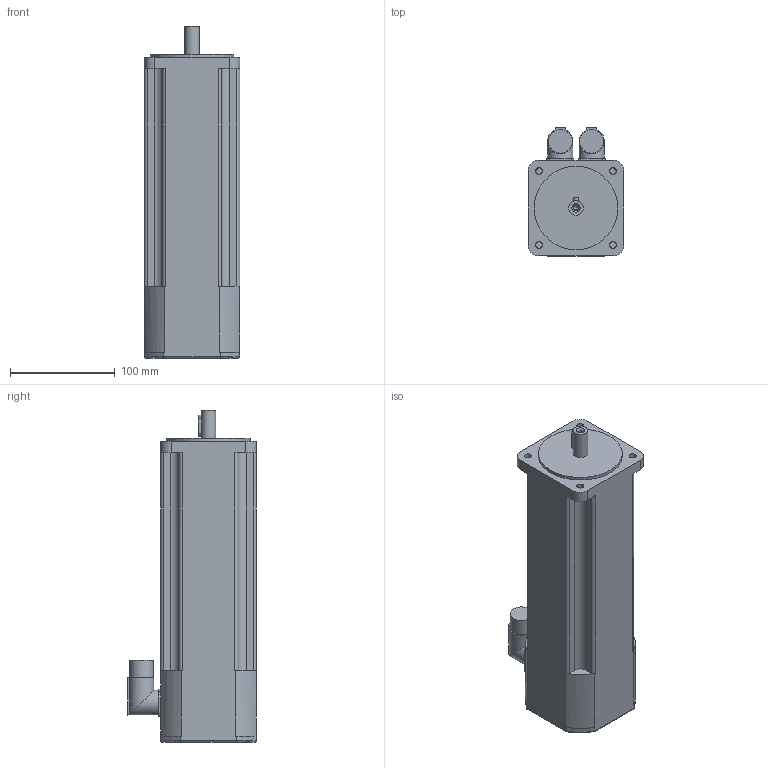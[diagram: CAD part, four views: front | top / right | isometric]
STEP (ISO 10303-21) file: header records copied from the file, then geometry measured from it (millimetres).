
FILE_DESCRIPTION(/* description */ (''),/* implementation_level */ '2;1');
FILE_NAME(/* name */ '\\Lafnas01\disegni\Archivi Lafert\3D\CAD 3D\MODELLI\Assiemi clienti\Serad\Modelli 3D Serad\B56I\Encoder\Enc With Brake\B5603Ixx6BRx2033.ipt.stp',/* time_stamp */ '2015-09-07T10:49:39+02:00',/* author */ ('Pastrello Ylenia'),/* organization */ (''),/* preprocessor_version */ 'ST-DEVELOPER v15.6',/* originating_system */ 'Autodesk Inventor 2015',/* authorisation */ '');
FILE_SCHEMA (('AUTOMOTIVE_DESIGN { 1 0 10303 214 3 1 1 }'));
Length unit declared in the file: millimetre
Products named in the file (1): B5603Ixx6BRx2033
Bounding box: 91.3 x 122.8 x 317.5 mm (x, y, z)
Volume: 2178468.3 mm3; surface area: 126589.7 mm2
Topology: 1 solids, 1 shells, 133 faces, 339 edges, 215 vertices
Faces by surface type: plane 74, cylinder 52, torus 4, cone 3
Full cylindrical faces by diameter (mm): 4.134 x1, 5.3 x1, 6.5 x4, 14 x1, 22.7 x2, 24 x2, 80 x1
Entity records: 4088 total; most frequent: CARTESIAN_POINT 804, DIRECTION 726, ORIENTED_EDGE 640, EDGE_CURVE 320, AXIS2_PLACEMENT_3D 282, VERTEX_POINT 212, EDGE_LOOP 164, LINE 162
